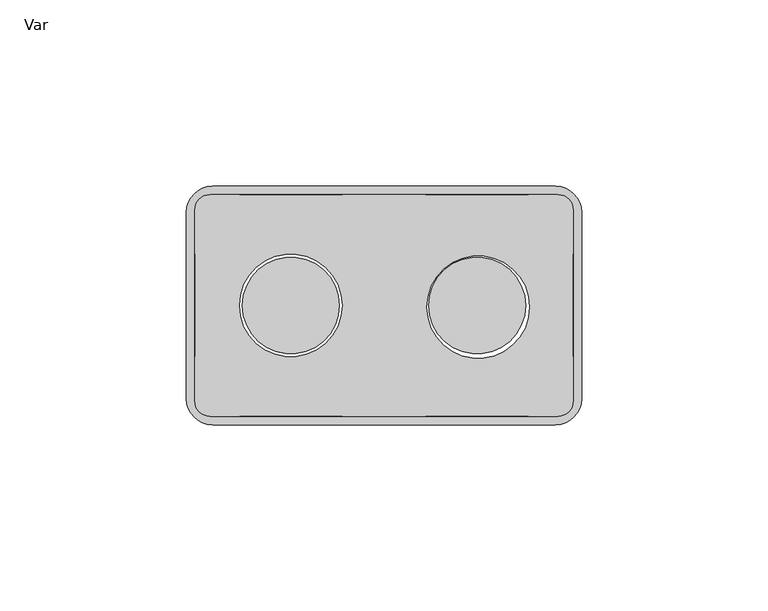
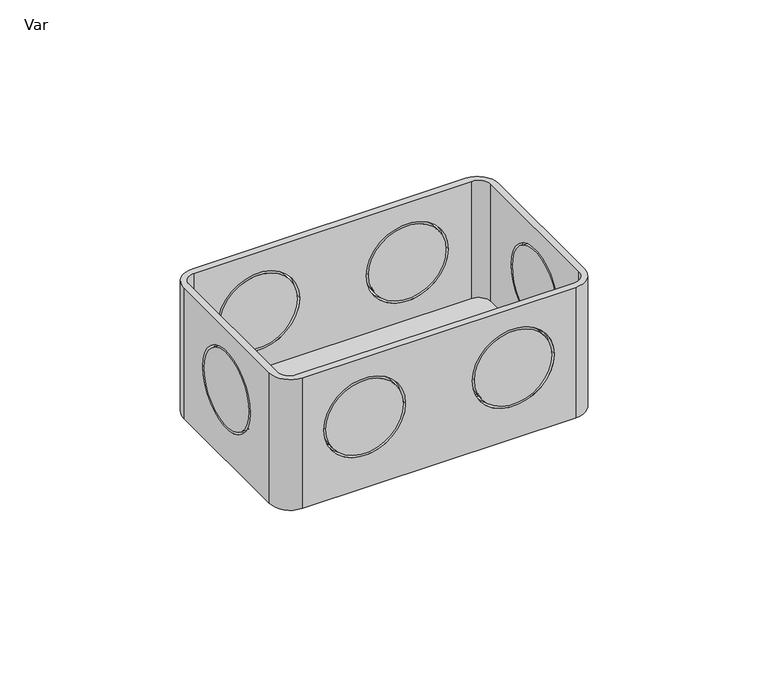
"""IFC4 building model written with IfcOpenShell, lengths in millimetres: cable carrier fitting geometry, AmancoWavin_Unionesdetubería_ConduitZNousarcajachalupa : Var."""

from ifc_helpers import new_model, si_unit, frame, origin, place, context, project, spatial, polyline, circle_curve, source, transform, mapped, element, save
from ifc_brep_helpers import plane_surface, cylinder_surface, revolved_surface, advanced_brep


def var_9e1fd1a0(model_context):
    return source(origin(), model_context, "Body", "AdvancedBrep", [
        advanced_brep(
        [(-53.0, -25.0, 23.25), (-46.0, -32.0, 23.25), (46.0, -32.0, 23.25), (53.0, -25.0, 23.25), (53.0, 25.0, 23.25), (46.0, 32.0, 23.25), (-46.0, 32.0, 23.25), (-53.0, 25.0, 23.25), (-46.67, -29.75, 23.25), (-50.75, -25.67, 23.25), (-50.75, 25.67, 23.25), (-46.67, 29.75, 23.25), (46.67, 29.75, 23.25), (50.75, 25.67, 23.25), (50.75, -25.67, 23.25), (46.67, -29.75, 23.25), (-53.0, -25.0, -23.25), (-53.0, 25.0, -23.25), (-46.0, 32.0, -23.25), (46.0, 32.0, -23.25), (53.0, 25.0, -23.25), (53.0, -25.0, -23.25), (46.0, -32.0, -23.25), (-46.0, -32.0, -23.25), (11.5143814, -0.4123568, -23.25), (39.0143814, -0.4123568, -23.25), (-38.75, 0.0, -23.25), (-11.25, 0.0, -23.25), (38.75, -32.0, 2.04), (11.25, -32.0, 2.04), (-11.25, -32.0, 2.04), (-38.75, -32.0, 2.04), (53.0, 13.75, 2.04), (53.0, -13.75, 2.04), (11.25, 32.0, 2.04), (38.75, 32.0, 2.04), (-38.75, 32.0, 2.04), (-11.25, 32.0, 2.04), (-53.0, -13.75, 2.04), (-53.0, 13.75, 2.04), (-50.75, -25.67, -18.4565804), (-46.67, -29.75, -18.4565804), (46.67, -29.75, -18.4565804), (50.75, -25.67, -18.4565804), (50.75, 25.67, -18.4565804), (46.67, 29.75, -18.4565804), (-46.67, 29.75, -18.4565804), (-50.75, 25.67, -18.4565804), (39.0143814, -0.4123568, -18.4565804), (11.5143814, -0.4123568, -18.4565804), (-11.25, 0.0, -18.4565804), (-38.75, 0.0, -18.4565804), (11.25, -29.75, 2.04), (38.75, -29.75, 2.04), (-38.75, -29.75, 2.04), (-11.25, -29.75, 2.04), (50.75, -13.75, 2.04), (50.75, 13.75, 2.04), (38.75, 29.75, 2.04), (11.25, 29.75, 2.04), (-11.25, 29.75, 2.04), (-38.75, 29.75, 2.04), (-50.75, 13.75, 2.04), (-50.75, -13.75, 2.04)],
        [
            (0, 1, circle_curve(frame((-46.0, -25.0, 23.25), z_axis=(0.0, 0.0, 1.0), x_axis=(1.0, 0.0, 0.0)), 7.0)),
            (1, 2),
            (2, 3, circle_curve(frame((46.0, -25.0, 23.25), z_axis=(0.0, 0.0, 1.0), x_axis=(1.0, 0.0, 0.0)), 7.0)),
            (3, 4),
            (4, 5, circle_curve(frame((46.0, 25.0, 23.25), z_axis=(0.0, 0.0, 1.0), x_axis=(1.0, 0.0, 0.0)), 7.0)),
            (5, 6),
            (6, 7, circle_curve(frame((-46.0, 25.0, 23.25), z_axis=(0.0, 0.0, 1.0), x_axis=(1.0, 0.0, 0.0)), 7.0)),
            (7, 0),
            (8, 9, circle_curve(frame((-46.67, -25.67, 23.25), z_axis=(0.0, 0.0, -1.0), x_axis=(1.0, 0.0, 0.0)), 4.08)),
            (9, 10),
            (10, 11, circle_curve(frame((-46.67, 25.67, 23.25), z_axis=(0.0, 0.0, -1.0), x_axis=(1.0, 0.0, 0.0)), 4.08)),
            (11, 12),
            (12, 13, circle_curve(frame((46.67, 25.67, 23.25), z_axis=(0.0, 0.0, -1.0), x_axis=(1.0, 0.0, 0.0)), 4.08)),
            (13, 14),
            (14, 15, circle_curve(frame((46.67, -25.67, 23.25), z_axis=(0.0, 0.0, -1.0), x_axis=(1.0, 0.0, 0.0)), 4.08)),
            (15, 8),
            (16, 17),
            (17, 18, circle_curve(frame((-46.0, 25.0, -23.25), z_axis=(0.0, 0.0, -1.0), x_axis=(1.0, 0.0, 0.0)), 7.0)),
            (18, 19),
            (19, 20, circle_curve(frame((46.0, 25.0, -23.25), z_axis=(0.0, 0.0, -1.0), x_axis=(1.0, 0.0, 0.0)), 7.0)),
            (20, 21),
            (21, 22, circle_curve(frame((46.0, -25.0, -23.25), z_axis=(0.0, 0.0, -1.0), x_axis=(1.0, 0.0, 0.0)), 7.0)),
            (22, 23),
            (23, 16, circle_curve(frame((-46.0, -25.0, -23.25), z_axis=(0.0, 0.0, -1.0), x_axis=(1.0, 0.0, 0.0)), 7.0)),
            (24, 25, circle_curve(frame((25.2643814, -0.4123568, -23.25), z_axis=(0.0, 0.0, 1.0), x_axis=(1.0, 0.0, 0.0)), 13.75)),
            (25, 24, circle_curve(frame((25.2643814, -0.4123568, -23.25), z_axis=(0.0, 0.0, 1.0), x_axis=(1.0, 0.0, 0.0)), 13.75)),
            (26, 27, circle_curve(frame((-25.0, 0.0, -23.25), z_axis=(0.0, 0.0, 1.0), x_axis=(1.0, 0.0, 0.0)), 13.75)),
            (27, 26, circle_curve(frame((-25.0, 0.0, -23.25), z_axis=(0.0, 0.0, 1.0), x_axis=(1.0, 0.0, 0.0)), 13.75)),
            (0, 16),
            (23, 1),
            (22, 2),
            (28, 29, circle_curve(frame((25.0, -32.0, 2.04), z_axis=(0.0, 1.0, 0.0), x_axis=(1.0, 0.0, 0.0)), 13.75)),
            (29, 28, circle_curve(frame((25.0, -32.0, 2.04), z_axis=(0.0, 1.0, 0.0), x_axis=(1.0, 0.0, 0.0)), 13.75)),
            (30, 31, circle_curve(frame((-25.0, -32.0, 2.04), z_axis=(0.0, 1.0, 0.0), x_axis=(1.0, 0.0, 0.0)), 13.75)),
            (31, 30, circle_curve(frame((-25.0, -32.0, 2.04), z_axis=(0.0, 1.0, 0.0), x_axis=(1.0, 0.0, 0.0)), 13.75)),
            (21, 3),
            (20, 4),
            (32, 33, circle_curve(frame((53.0, 0.0, 2.04), z_axis=(-1.0, 0.0, 0.0), x_axis=(0.0, 1.0, 0.0)), 13.75)),
            (33, 32, circle_curve(frame((53.0, 0.0, 2.04), z_axis=(-1.0, 0.0, 0.0), x_axis=(0.0, 1.0, 0.0)), 13.75)),
            (19, 5),
            (18, 6),
            (34, 35, circle_curve(frame((25.0, 32.0, 2.04), z_axis=(0.0, -1.0, 0.0), x_axis=(1.0, 0.0, 0.0)), 13.75)),
            (35, 34, circle_curve(frame((25.0, 32.0, 2.04), z_axis=(0.0, -1.0, 0.0), x_axis=(1.0, 0.0, 0.0)), 13.75)),
            (36, 37, circle_curve(frame((-25.0, 32.0, 2.04), z_axis=(0.0, -1.0, 0.0), x_axis=(1.0, 0.0, 0.0)), 13.75)),
            (37, 36, circle_curve(frame((-25.0, 32.0, 2.04), z_axis=(0.0, -1.0, 0.0), x_axis=(1.0, 0.0, 0.0)), 13.75)),
            (17, 7),
            (38, 39, circle_curve(frame((-53.0, 0.0, 2.04), z_axis=(1.0, 0.0, 0.0), x_axis=(0.0, 1.0, 0.0)), 13.75)),
            (39, 38, circle_curve(frame((-53.0, 0.0, 2.04), z_axis=(1.0, 0.0, 0.0), x_axis=(0.0, 1.0, 0.0)), 13.75)),
            (40, 41, circle_curve(frame((-46.67, -25.67, -18.4565804), z_axis=(0.0, 0.0, 1.0), x_axis=(1.0, 0.0, 0.0)), 4.08)),
            (41, 42),
            (42, 43, circle_curve(frame((46.67, -25.67, -18.4565804), z_axis=(0.0, 0.0, 1.0), x_axis=(1.0, 0.0, 0.0)), 4.08)),
            (43, 44),
            (44, 45, circle_curve(frame((46.67, 25.67, -18.4565804), z_axis=(0.0, 0.0, 1.0), x_axis=(1.0, 0.0, 0.0)), 4.08)),
            (45, 46),
            (46, 47, circle_curve(frame((-46.67, 25.67, -18.4565804), z_axis=(0.0, 0.0, 1.0), x_axis=(1.0, 0.0, 0.0)), 4.08)),
            (47, 40),
            (48, 49, circle_curve(frame((25.2643814, -0.4123568, -18.4565804), z_axis=(0.0, 0.0, -1.0), x_axis=(1.0, 0.0, 0.0)), 13.75)),
            (49, 48, circle_curve(frame((25.2643814, -0.4123568, -18.4565804), z_axis=(0.0, 0.0, -1.0), x_axis=(1.0, 0.0, 0.0)), 13.75)),
            (50, 51, circle_curve(frame((-25.0, 0.0, -18.4565804), z_axis=(0.0, 0.0, -1.0), x_axis=(1.0, 0.0, 0.0)), 13.75)),
            (51, 50, circle_curve(frame((-25.0, 0.0, -18.4565804), z_axis=(0.0, 0.0, -1.0), x_axis=(1.0, 0.0, 0.0)), 13.75)),
            (40, 9),
            (8, 41),
            (15, 42),
            (52, 53, circle_curve(frame((25.0, -29.75, 2.04), z_axis=(0.0, -1.0, 0.0), x_axis=(1.0, 0.0, 0.0)), 13.75)),
            (53, 52, circle_curve(frame((25.0, -29.75, 2.04), z_axis=(0.0, -1.0, 0.0), x_axis=(1.0, 0.0, 0.0)), 13.75)),
            (54, 55, circle_curve(frame((-25.0, -29.75, 2.04), z_axis=(0.0, -1.0, 0.0), x_axis=(1.0, 0.0, 0.0)), 13.75)),
            (55, 54, circle_curve(frame((-25.0, -29.75, 2.04), z_axis=(0.0, -1.0, 0.0), x_axis=(1.0, 0.0, 0.0)), 13.75)),
            (14, 43),
            (13, 44),
            (56, 57, circle_curve(frame((50.75, 0.0, 2.04), z_axis=(1.0, 0.0, 0.0), x_axis=(0.0, 1.0, 0.0)), 13.75)),
            (57, 56, circle_curve(frame((50.75, 0.0, 2.04), z_axis=(1.0, 0.0, 0.0), x_axis=(0.0, 1.0, 0.0)), 13.75)),
            (12, 45),
            (11, 46),
            (58, 59, circle_curve(frame((25.0, 29.75, 2.04), z_axis=(0.0, 1.0, 0.0), x_axis=(1.0, 0.0, 0.0)), 13.75)),
            (59, 58, circle_curve(frame((25.0, 29.75, 2.04), z_axis=(0.0, 1.0, 0.0), x_axis=(1.0, 0.0, 0.0)), 13.75)),
            (60, 61, circle_curve(frame((-25.0, 29.75, 2.04), z_axis=(0.0, 1.0, 0.0), x_axis=(1.0, 0.0, 0.0)), 13.75)),
            (61, 60, circle_curve(frame((-25.0, 29.75, 2.04), z_axis=(0.0, 1.0, 0.0), x_axis=(1.0, 0.0, 0.0)), 13.75)),
            (10, 47),
            (62, 63, circle_curve(frame((-50.75, 0.0, 2.04), z_axis=(-1.0, 0.0, 0.0), x_axis=(0.0, 1.0, 0.0)), 13.75)),
            (63, 62, circle_curve(frame((-50.75, 0.0, 2.04), z_axis=(-1.0, 0.0, 0.0), x_axis=(0.0, 1.0, 0.0)), 13.75)),
            (56, 33),
            (32, 57),
            (38, 63),
            (62, 39),
            (52, 29),
            (28, 53),
            (34, 59),
            (58, 35),
            (54, 31),
            (30, 55),
            (36, 61),
            (60, 37),
            (24, 49),
            (48, 25),
            (26, 51),
            (50, 27),
        ],
        [
            plane_surface(frame((-39.0, -25.0, 23.25), z_axis=(0.0, 0.0, 1.0), x_axis=(0.0, 1.0, 0.0))),
            plane_surface(frame((-39.0, -25.0, -23.25), z_axis=(0.0, 0.0, -1.0), x_axis=(0.0, -1.0, 0.0))),
            cylinder_surface(frame((-46.0, -25.0, -23.25), z_axis=(0.0, 0.0, 1.0), x_axis=(1.0, 0.0, 0.0)), 7.0),
            plane_surface(frame((-46.0, -32.0, 23.25), z_axis=(0.0, -1.0, 0.0), x_axis=(0.0, 0.0, -1.0))),
            cylinder_surface(frame((46.0, -25.0, -23.25), z_axis=(0.0, 0.0, 1.0), x_axis=(1.0, 0.0, 0.0)), 7.0),
            plane_surface(frame((53.0, -25.0, 23.25), z_axis=(1.0, 0.0, 0.0), x_axis=(0.0, 0.0, -1.0))),
            cylinder_surface(frame((46.0, 25.0, -23.25), z_axis=(0.0, 0.0, 1.0), x_axis=(1.0, 0.0, 0.0)), 7.0),
            plane_surface(frame((46.0, 32.0, 23.25), z_axis=(0.0, 1.0, 0.0), x_axis=(0.0, 0.0, -1.0))),
            cylinder_surface(frame((-46.0, 25.0, -23.25), z_axis=(0.0, 0.0, 1.0), x_axis=(1.0, 0.0, 0.0)), 7.0),
            plane_surface(frame((-53.0, 25.0, 23.25), z_axis=(-1.0, 0.0, 0.0), x_axis=(0.0, 0.0, -1.0))),
            plane_surface(frame((-42.59, -25.67, -18.4565804), z_axis=(0.0, 0.0, 1.0), x_axis=(0.0, -1.0, 0.0))),
            revolved_surface(polyline([(-42.59, -25.67, 23.25), (-42.59, -25.67, -18.4565804)]), (-46.67, -25.67, -18.4565804), (0.0, 0.0, 1.0)),
            plane_surface(frame((-46.67, -29.75, 28.95), z_axis=(0.0, 1.0, 0.0), x_axis=(0.0, 0.0, -1.0))),
            revolved_surface(polyline([(50.75, -25.67, 23.25), (50.75, -25.67, -18.4565804)]), (46.67, -25.67, -18.4565804), (0.0, 0.0, 1.0)),
            plane_surface(frame((50.75, -25.67, 28.95), z_axis=(-1.0, 0.0, 0.0), x_axis=(0.0, 0.0, -1.0))),
            revolved_surface(polyline([(50.75, 25.67, 23.25), (50.75, 25.67, -18.4565804)]), (46.67, 25.67, -18.4565804), (0.0, 0.0, 1.0)),
            plane_surface(frame((46.67, 29.75, 28.95), z_axis=(0.0, -1.0, 0.0), x_axis=(0.0, 0.0, -1.0))),
            revolved_surface(polyline([(-42.59, 25.67, 23.25), (-42.59, 25.67, -18.4565804)]), (-46.67, 25.67, -18.4565804), (0.0, 0.0, 1.0)),
            plane_surface(frame((-50.75, 25.67, 28.95), z_axis=(1.0, 0.0, 0.0), x_axis=(0.0, 0.0, -1.0))),
            revolved_surface(polyline([(53.0, 13.75, 2.04), (50.75, 13.75, 2.04)]), (0.0, 0.0, 2.04), (1.0, 0.0, 0.0)),
            revolved_surface(polyline([(-50.75, 13.75, 2.04), (-53.0, 13.75, 2.04)]), (0.0, 0.0, 2.04), (1.0, 0.0, 0.0)),
            revolved_surface(polyline([(38.75, -32.0, 2.04), (38.75, -29.75, 2.04)]), (25.0, 0.0, 2.04), (0.0, -1.0, 0.0)),
            revolved_surface(polyline([(38.75, 29.75, 2.04), (38.75, 32.0, 2.04)]), (25.0, 0.0, 2.04), (0.0, -1.0, 0.0)),
            revolved_surface(polyline([(-11.25, -32.0, 2.04), (-11.25, -29.75, 2.04)]), (-25.0, 0.0, 2.04), (0.0, -1.0, 0.0)),
            revolved_surface(polyline([(-11.25, 29.75, 2.04), (-11.25, 32.0, 2.04)]), (-25.0, 0.0, 2.04), (0.0, -1.0, 0.0)),
            revolved_surface(polyline([(39.014381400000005, -0.4123568, -18.4565804), (39.014381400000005, -0.4123568, -23.25)]), (25.2643814, -0.4123568, 0.0), (0.0, 0.0, 1.0)),
            revolved_surface(polyline([(-11.25, 0.0, -18.4565804), (-11.25, 0.0, -23.25)]), (-25.0, 0.0, 0.0), (0.0, 0.0, 1.0)),
        ],
        [
            (0, [[1, 2, 3, 4, 5, 6, 7, 8], [9, 10, 11, 12, 13, 14, 15, 16]]),
            (1, [[17, 18, 19, 20, 21, 22, 23, 24], [25, 26], [27, 28]]),
            (2, [[-1, 29, -24, 30]]),
            (3, [[-2, -30, -23, 31], [32, 33], [34, 35]]),
            (4, [[-3, -31, -22, 36]]),
            (5, [[-4, -36, -21, 37], [38, 39]]),
            (6, [[-5, -37, -20, 40]]),
            (7, [[-6, -40, -19, 41], [42, 43], [44, 45]]),
            (8, [[-7, -41, -18, 46]]),
            (9, [[-8, -46, -17, -29], [47, 48]]),
            (10, [[49, 50, 51, 52, 53, 54, 55, 56], [57, 58], [59, 60]]),
            (11, [[-49, 61, -9, 62]]),
            (12, [[-50, -62, -16, 63], [64, 65], [66, 67]]),
            (13, [[-51, -63, -15, 68]]),
            (14, [[-52, -68, -14, 69], [70, 71]]),
            (15, [[-53, -69, -13, 72]]),
            (16, [[-54, -72, -12, 73], [74, 75], [76, 77]]),
            (17, [[-55, -73, -11, 78]]),
            (18, [[-56, -78, -10, -61], [79, 80]]),
            (19, [[81, -38, 82, -70]]),
            (20, [[83, -79, 84, -47]]),
            (19, [[-81, -71, -82, -39]]),
            (20, [[-83, -48, -84, -80]]),
            (21, [[85, -32, 86, -64]]),
            (22, [[87, -74, 88, -42]]),
            (21, [[-85, -65, -86, -33]]),
            (22, [[-87, -43, -88, -75]]),
            (23, [[89, -34, 90, -66]]),
            (24, [[91, -76, 92, -44]]),
            (23, [[-89, -67, -90, -35]]),
            (24, [[-91, -45, -92, -77]]),
            (25, [[93, -57, 94, -25]]),
            (25, [[-93, -26, -94, -58]]),
            (26, [[95, -59, 96, -27]]),
            (26, [[-95, -28, -96, -60]]),
        ],
    ),
        advanced_brep(
        [(12.0, 0.0, -23.25), (38.0, 0.0, -23.25), (38.0, 0.0, -18.4565804), (12.0, 0.0, -18.4565804)],
        [
            (0, 1, circle_curve(frame((25.0, 0.0, -23.25), z_axis=(0.0, 0.0, -1.0), x_axis=(1.0, 0.0, 0.0)), 13.0)),
            (1, 0, circle_curve(frame((25.0, 0.0, -23.25), z_axis=(0.0, 0.0, -1.0), x_axis=(1.0, 0.0, 0.0)), 13.0)),
            (2, 3, circle_curve(frame((25.0, 0.0, -18.4565804), z_axis=(0.0, 0.0, 1.0), x_axis=(1.0, 0.0, 0.0)), 13.0)),
            (3, 2, circle_curve(frame((25.0, 0.0, -18.4565804), z_axis=(0.0, 0.0, 1.0), x_axis=(1.0, 0.0, 0.0)), 13.0)),
            (0, 3),
            (2, 1),
        ],
        [
            plane_surface(frame((-39.0, -25.0, -23.25), z_axis=(0.0, 0.0, -1.0), x_axis=(0.0, -1.0, 0.0))),
            plane_surface(frame((-42.59, -25.67, -18.4565804), z_axis=(0.0, 0.0, 1.0), x_axis=(0.0, -1.0, 0.0))),
            cylinder_surface(frame((25.0, 0.0, -23.25), z_axis=(0.0, 0.0, -1.0), x_axis=(1.0, 0.0, 0.0)), 13.0),
        ],
        [
            (0, [[1, 2]]),
            (1, [[3, 4]]),
            (2, [[5, -3, 6, -1]]),
            (2, [[-5, -2, -6, -4]]),
        ],
    ),
        advanced_brep(
        [(-38.0, 0.0, -23.25), (-12.0, 0.0, -23.25), (-12.0, 0.0, -18.4565804), (-38.0, 0.0, -18.4565804)],
        [
            (0, 1, circle_curve(frame((-25.0, 0.0, -23.25), z_axis=(0.0, 0.0, -1.0), x_axis=(1.0, 0.0, 0.0)), 13.0)),
            (1, 0, circle_curve(frame((-25.0, 0.0, -23.25), z_axis=(0.0, 0.0, -1.0), x_axis=(1.0, 0.0, 0.0)), 13.0)),
            (2, 3, circle_curve(frame((-25.0, 0.0, -18.4565804), z_axis=(0.0, 0.0, 1.0), x_axis=(1.0, 0.0, 0.0)), 13.0)),
            (3, 2, circle_curve(frame((-25.0, 0.0, -18.4565804), z_axis=(0.0, 0.0, 1.0), x_axis=(1.0, 0.0, 0.0)), 13.0)),
            (0, 3),
            (2, 1),
        ],
        [
            plane_surface(frame((-39.0, -25.0, -23.25), z_axis=(0.0, 0.0, -1.0), x_axis=(0.0, -1.0, 0.0))),
            plane_surface(frame((-42.59, -25.67, -18.4565804), z_axis=(0.0, 0.0, 1.0), x_axis=(0.0, -1.0, 0.0))),
            cylinder_surface(frame((-25.0, 0.0, 0.0), z_axis=(0.0, 0.0, -1.0), x_axis=(1.0, 0.0, 0.0)), 13.0),
        ],
        [
            (0, [[1, 2]]),
            (1, [[3, 4]]),
            (2, [[5, -3, 6, -1]]),
            (2, [[-5, -2, -6, -4]]),
        ],
    ),
        advanced_brep(
        [(38.0, -32.0, 2.04), (12.0, -32.0, 2.04), (12.0, -29.75, 2.04), (38.0, -29.75, 2.04)],
        [
            (0, 1, circle_curve(frame((25.0, -32.0, 2.04), z_axis=(0.0, -1.0, 0.0), x_axis=(1.0, 0.0, 0.0)), 13.0)),
            (1, 0, circle_curve(frame((25.0, -32.0, 2.04), z_axis=(0.0, -1.0, 0.0), x_axis=(1.0, 0.0, 0.0)), 13.0)),
            (2, 3, circle_curve(frame((25.0, -29.75, 2.04), z_axis=(0.0, 1.0, 0.0), x_axis=(1.0, 0.0, 0.0)), 13.0)),
            (3, 2, circle_curve(frame((25.0, -29.75, 2.04), z_axis=(0.0, 1.0, 0.0), x_axis=(1.0, 0.0, 0.0)), 13.0)),
            (2, 1),
            (0, 3),
        ],
        [
            plane_surface(frame((-46.0, -32.0, 23.25), z_axis=(0.0, -1.0, 0.0), x_axis=(0.0, 0.0, -1.0))),
            plane_surface(frame((-46.67, -29.75, 28.95), z_axis=(0.0, 1.0, 0.0), x_axis=(0.0, 0.0, -1.0))),
            cylinder_surface(frame((25.0, 64.0967625, 2.04), z_axis=(0.0, 1.0, 0.0), x_axis=(1.0, 0.0, 0.0)), 13.0),
        ],
        [
            (0, [[1, 2]]),
            (1, [[3, 4]]),
            (2, [[5, -1, 6, -3]]),
            (2, [[-5, -4, -6, -2]]),
        ],
    ),
        advanced_brep(
        [(-12.0, -32.0, 2.04), (-38.0, -32.0, 2.04), (-38.0, -29.75, 2.04), (-12.0, -29.75, 2.04)],
        [
            (0, 1, circle_curve(frame((-25.0, -32.0, 2.04), z_axis=(0.0, -1.0, 0.0), x_axis=(1.0, 0.0, 0.0)), 13.0)),
            (1, 0, circle_curve(frame((-25.0, -32.0, 2.04), z_axis=(0.0, -1.0, 0.0), x_axis=(1.0, 0.0, 0.0)), 13.0)),
            (2, 3, circle_curve(frame((-25.0, -29.75, 2.04), z_axis=(0.0, 1.0, 0.0), x_axis=(1.0, 0.0, 0.0)), 13.0)),
            (3, 2, circle_curve(frame((-25.0, -29.75, 2.04), z_axis=(0.0, 1.0, 0.0), x_axis=(1.0, 0.0, 0.0)), 13.0)),
            (2, 1),
            (0, 3),
        ],
        [
            plane_surface(frame((-46.0, -32.0, 23.25), z_axis=(0.0, -1.0, 0.0), x_axis=(0.0, 0.0, -1.0))),
            plane_surface(frame((-46.67, -29.75, 28.95), z_axis=(0.0, 1.0, 0.0), x_axis=(0.0, 0.0, -1.0))),
            cylinder_surface(frame((-25.0, 64.0967625, 2.04), z_axis=(0.0, 1.0, 0.0), x_axis=(1.0, 0.0, 0.0)), 13.0),
        ],
        [
            (0, [[1, 2]]),
            (1, [[3, 4]]),
            (2, [[5, -1, 6, -3]]),
            (2, [[-5, -4, -6, -2]]),
        ],
    ),
        advanced_brep(
        [(53.0, 13.0, 2.04), (53.0, -13.0, 2.04), (50.75, -13.0, 2.04), (50.75, 13.0, 2.04)],
        [
            (0, 1, circle_curve(frame((53.0, 0.0, 2.04), z_axis=(1.0, 0.0, 0.0), x_axis=(0.0, 1.0, 0.0)), 13.0)),
            (1, 0, circle_curve(frame((53.0, 0.0, 2.04), z_axis=(1.0, 0.0, 0.0), x_axis=(0.0, 1.0, 0.0)), 13.0)),
            (2, 3, circle_curve(frame((50.75, 0.0, 2.04), z_axis=(-1.0, 0.0, 0.0), x_axis=(0.0, 1.0, 0.0)), 13.0)),
            (3, 2, circle_curve(frame((50.75, 0.0, 2.04), z_axis=(-1.0, 0.0, 0.0), x_axis=(0.0, 1.0, 0.0)), 13.0)),
            (2, 1),
            (0, 3),
        ],
        [
            plane_surface(frame((53.0, -25.0, 23.25), z_axis=(1.0, 0.0, 0.0), x_axis=(0.0, 0.0, -1.0))),
            plane_surface(frame((50.75, -25.67, 28.95), z_axis=(-1.0, 0.0, 0.0), x_axis=(0.0, 0.0, -1.0))),
            cylinder_surface(frame((-53.0, 0.0, 2.04), z_axis=(-1.0, 0.0, 0.0), x_axis=(0.0, 1.0, 0.0)), 13.0),
        ],
        [
            (0, [[1, 2]]),
            (1, [[3, 4]]),
            (2, [[5, -1, 6, -3]]),
            (2, [[-5, -4, -6, -2]]),
        ],
    ),
        advanced_brep(
        [(12.0, 32.0, 2.04), (38.0, 32.0, 2.04), (38.0, 29.75, 2.04), (12.0, 29.75, 2.04)],
        [
            (0, 1, circle_curve(frame((25.0, 32.0, 2.04), z_axis=(0.0, 1.0, 0.0), x_axis=(1.0, 0.0, 0.0)), 13.0)),
            (1, 0, circle_curve(frame((25.0, 32.0, 2.04), z_axis=(0.0, 1.0, 0.0), x_axis=(1.0, 0.0, 0.0)), 13.0)),
            (2, 3, circle_curve(frame((25.0, 29.75, 2.04), z_axis=(0.0, -1.0, 0.0), x_axis=(1.0, 0.0, 0.0)), 13.0)),
            (3, 2, circle_curve(frame((25.0, 29.75, 2.04), z_axis=(0.0, -1.0, 0.0), x_axis=(1.0, 0.0, 0.0)), 13.0)),
            (0, 3),
            (2, 1),
        ],
        [
            plane_surface(frame((46.0, 32.0, 23.25), z_axis=(0.0, 1.0, 0.0), x_axis=(0.0, 0.0, -1.0))),
            plane_surface(frame((46.67, 29.75, 28.95), z_axis=(0.0, -1.0, 0.0), x_axis=(0.0, 0.0, -1.0))),
            cylinder_surface(frame((25.0, 64.0967625, 2.04), z_axis=(0.0, 1.0, 0.0), x_axis=(1.0, 0.0, 0.0)), 13.0),
        ],
        [
            (0, [[1, 2]]),
            (1, [[3, 4]]),
            (2, [[5, -3, 6, -1]]),
            (2, [[-5, -2, -6, -4]]),
        ],
    ),
        advanced_brep(
        [(-38.0, 32.0, 2.04), (-12.0, 32.0, 2.04), (-12.0, 29.75, 2.04), (-38.0, 29.75, 2.04)],
        [
            (0, 1, circle_curve(frame((-25.0, 32.0, 2.04), z_axis=(0.0, 1.0, 0.0), x_axis=(1.0, 0.0, 0.0)), 13.0)),
            (1, 0, circle_curve(frame((-25.0, 32.0, 2.04), z_axis=(0.0, 1.0, 0.0), x_axis=(1.0, 0.0, 0.0)), 13.0)),
            (2, 3, circle_curve(frame((-25.0, 29.75, 2.04), z_axis=(0.0, -1.0, 0.0), x_axis=(1.0, 0.0, 0.0)), 13.0)),
            (3, 2, circle_curve(frame((-25.0, 29.75, 2.04), z_axis=(0.0, -1.0, 0.0), x_axis=(1.0, 0.0, 0.0)), 13.0)),
            (0, 3),
            (2, 1),
        ],
        [
            plane_surface(frame((46.0, 32.0, 23.25), z_axis=(0.0, 1.0, 0.0), x_axis=(0.0, 0.0, -1.0))),
            plane_surface(frame((46.67, 29.75, 28.95), z_axis=(0.0, -1.0, 0.0), x_axis=(0.0, 0.0, -1.0))),
            cylinder_surface(frame((-25.0, 64.0967625, 2.04), z_axis=(0.0, 1.0, 0.0), x_axis=(1.0, 0.0, 0.0)), 13.0),
        ],
        [
            (0, [[1, 2]]),
            (1, [[3, 4]]),
            (2, [[5, -3, 6, -1]]),
            (2, [[-5, -2, -6, -4]]),
        ],
    ),
        advanced_brep(
        [(-53.0, -13.0, 2.04), (-53.0, 13.0, 2.04), (-50.75, 13.0, 2.04), (-50.75, -13.0, 2.04)],
        [
            (0, 1, circle_curve(frame((-53.0, 0.0, 2.04), z_axis=(-1.0, 0.0, 0.0), x_axis=(0.0, 1.0, 0.0)), 13.0)),
            (1, 0, circle_curve(frame((-53.0, 0.0, 2.04), z_axis=(-1.0, 0.0, 0.0), x_axis=(0.0, 1.0, 0.0)), 13.0)),
            (2, 3, circle_curve(frame((-50.75, 0.0, 2.04), z_axis=(1.0, 0.0, 0.0), x_axis=(0.0, 1.0, 0.0)), 13.0)),
            (3, 2, circle_curve(frame((-50.75, 0.0, 2.04), z_axis=(1.0, 0.0, 0.0), x_axis=(0.0, 1.0, 0.0)), 13.0)),
            (0, 3),
            (2, 1),
        ],
        [
            plane_surface(frame((-53.0, 25.0, 23.25), z_axis=(-1.0, 0.0, 0.0), x_axis=(0.0, 0.0, -1.0))),
            plane_surface(frame((-50.75, 25.67, 28.95), z_axis=(1.0, 0.0, 0.0), x_axis=(0.0, 0.0, -1.0))),
            cylinder_surface(frame((-53.0, 0.0, 2.04), z_axis=(-1.0, 0.0, 0.0), x_axis=(0.0, 1.0, 0.0)), 13.0),
        ],
        [
            (0, [[1, 2]]),
            (1, [[3, 4]]),
            (2, [[5, -3, 6, -1]]),
            (2, [[-5, -2, -6, -4]]),
        ],
    ),
    ])


if __name__ == "__main__":
    model = new_model("IFC4")
    model_context = context("Model", 3, world=origin())
    ifc_project = project(units=[si_unit("LENGTHUNIT", "METRE", prefix="MILLI")], contexts=[model_context])
    site = spatial("IfcSite", under=ifc_project)
    building = spatial("IfcBuilding", under=site)
    placement = place(None, origin())
    var_shape = var_9e1fd1a0(model_context)
    element("IfcCableCarrierFitting", 1, ObjectType="AmancoWavin_Unionesdetubería_ConduitZNousarcajachalupa : Var", at=placement, inside=building, context=model_context, shape_type="MappedRepresentation", body=[
        mapped(var_shape, transform((0.0, 0.0, 0.0), x_axis=(1.0, 0.0, 0.0), y_axis=(0.0, 1.0, 0.0), z_axis=(0.0, 0.0, 1.0))),
    ])
    save(model, "model.ifc")
